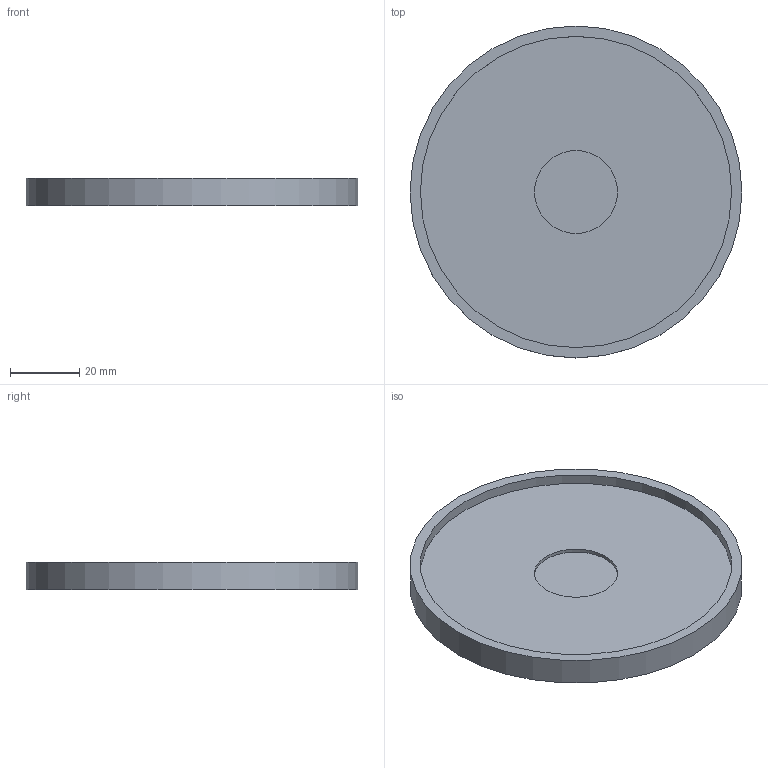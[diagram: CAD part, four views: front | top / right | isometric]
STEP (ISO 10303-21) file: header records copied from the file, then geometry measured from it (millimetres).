
FILE_DESCRIPTION(('Open CASCADE Model'),'2;1');
FILE_NAME('Open CASCADE Shape Model','2026-07-10T11:14:35',('Author'),( 'Open CASCADE'),'Open CASCADE STEP processor 7.9','Open CASCADE 7.9' ,'Unknown');
FILE_SCHEMA(('AUTOMOTIVE_DESIGN { 1 0 10303 214 1 1 1 1 }'));
Length unit declared in the file: millimetre
Products named in the file (1): Open CASCADE STEP translator 7.9 6
Bounding box: 96 x 96 x 8 mm (x, y, z)
Volume: 38368.3 mm3; surface area: 17812.8 mm2
Topology: 1 solids, 1 shells, 7 faces, 9 edges, 6 vertices
Faces by surface type: plane 4, cylinder 3
Full cylindrical faces by diameter (mm): 24 x1, 90 x1, 96 x1
Entity records: 282 total; most frequent: CARTESIAN_POINT 53, DIRECTION 47, ORIENTED_EDGE 18, PCURVE 18, DEFINITIONAL_REPRESENTATION 18, LINE 15, VECTOR 15, AXIS2_PLACEMENT_3D 14
